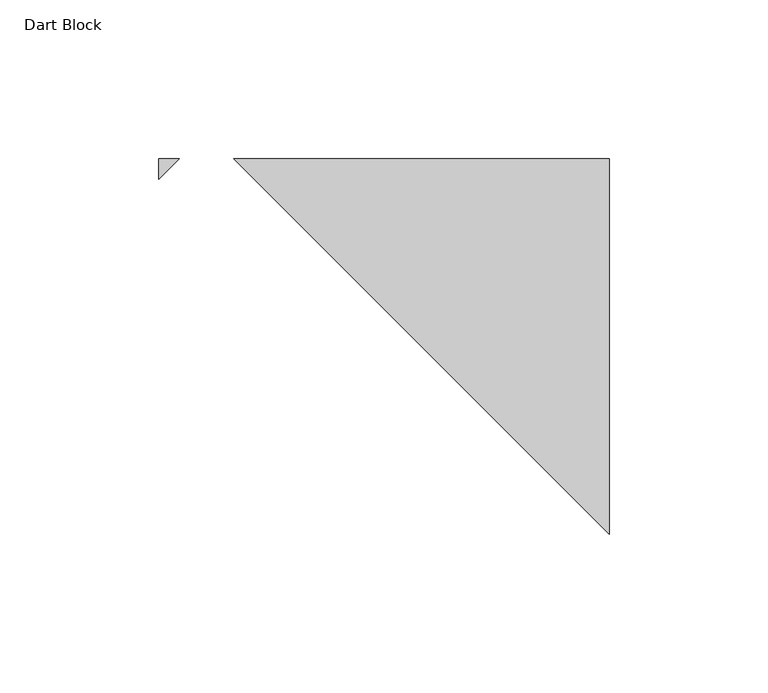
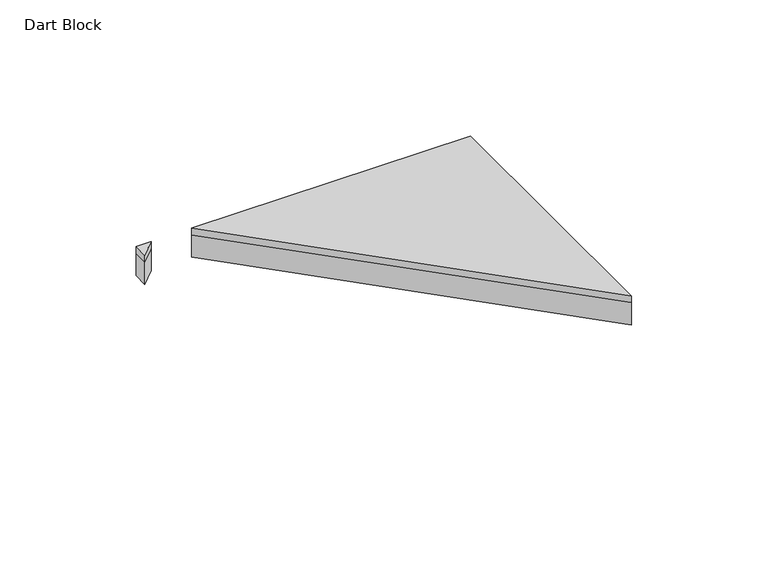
"""IFC4 building model written with IfcOpenShell, lengths in millimetres: proxy geometry, FilzFelt_Dart_Block : Dart Block."""

import ifcopenshell
import ifcopenshell.guid

model = None  # the IFC model being written
_history = None  # IfcOwnerHistory: only IFC2X3 demands one
_inside = {}  # id of a spatial element -> (the spatial element, [elements in it])
_under = {}  # id of a project, library or spatial element -> (it, [spatial elements below it])
_declared = {}  # id of a project -> (the project, [libraries it declares])
_typed = {}  # id of a type object -> (the type object, [elements of that type])
_made_of = {}  # id of a material, layer set ... -> (it, [elements and type objects made of it])


def new_model(schema):
    """Start an empty IFC model of exactly this schema.

    Asked for "IFC4X3", IfcOpenShell would pick the latest addendum, in which some entities
    have other attributes; the version numbers below select the first issue.
    IFC2X3 requires an IfcOwnerHistory on every rooted entity: one is made here for all.
    """
    global model, _history
    if schema == "IFC4X3":
        model = ifcopenshell.file(schema_version=(4, 3, 0, 0))
    else:
        model = ifcopenshell.file(schema=schema)
    _inside.clear()
    _under.clear()
    _declared.clear()
    _typed.clear()
    _made_of.clear()
    _history = None
    if model.schema == "IFC2X3":
        org = make("IfcOrganization", Name="unknown")
        user = make(
            "IfcPersonAndOrganization",
            ThePerson=make("IfcPerson", FamilyName="unknown"),
            TheOrganization=org,
        )
        app = make(
            "IfcApplication",
            ApplicationDeveloper=org,
            Version="unknown",
            ApplicationFullName="unknown",
            ApplicationIdentifier="unknown",
        )
        _history = make(
            "IfcOwnerHistory",
            OwningUser=user,
            OwningApplication=app,
            ChangeAction="ADDED",
            CreationDate=0,
        )
    return model


def make(cls, **values):
    """One entity of the class cls with the attributes given. An attribute that is None is left unset."""
    return model.create_entity(
        cls, **{name: value for name, value in values.items() if value is not None}
    )


def rooted(cls, **values):
    """An entity with a GlobalId (a new one), such as an element, a storey or a relation."""
    return make(cls, GlobalId=ifcopenshell.guid.new(), OwnerHistory=_history, **values)


def si_unit(unit_type, name, prefix=None):
    """IfcSIUnit, for example si_unit("LENGTHUNIT", "METRE", prefix="MILLI")."""
    return make("IfcSIUnit", UnitType=unit_type, Prefix=prefix, Name=name)


def assignment(units):
    """IfcUnitAssignment: the units of a project."""
    return None if units is None else make("IfcUnitAssignment", Units=units)


def point(xyz):
    """IfcCartesianPoint."""
    return None if xyz is None else make("IfcCartesianPoint", Coordinates=xyz)


def direction(xyz):
    """IfcDirection."""
    return None if xyz is None else make("IfcDirection", DirectionRatios=xyz)


def frame(location, z_axis=None, x_axis=None):
    """IfcAxis2Placement3D, a coordinate frame: its origin and axes. An axis left out is left unset."""
    return make(
        "IfcAxis2Placement3D",
        Location=point(location),
        Axis=direction(z_axis),
        RefDirection=direction(x_axis),
    )


def origin():
    """The frame at (0, 0, 0) with its axes left unset."""
    return frame((0.0, 0.0, 0.0))


def origin_with_axes():
    """The frame at (0, 0, 0) with the z axis (0, 0, 1) and the x axis (1, 0, 0) written out."""
    return frame((0.0, 0.0, 0.0), z_axis=(0.0, 0.0, 1.0), x_axis=(1.0, 0.0, 0.0))


def place(relative_to, where):
    """IfcLocalPlacement: puts the frame where relative to a parent placement (None: the world)."""
    return make(
        "IfcLocalPlacement", PlacementRelTo=relative_to, RelativePlacement=where
    )


def context(
    kind, dimensions, precision=None, world=None, true_north=None, identifier=None
):
    """IfcGeometricRepresentationContext, for example the 3D "Model" context."""
    return make(
        "IfcGeometricRepresentationContext",
        ContextIdentifier=identifier,
        ContextType=kind,
        CoordinateSpaceDimension=dimensions,
        Precision=precision,
        WorldCoordinateSystem=world,
        TrueNorth=true_north,
    )


def project(units=None, contexts=None):
    """IfcProject with its units and contexts."""
    return rooted(
        "IfcProject",
        Name="project",
        RepresentationContexts=contexts,
        UnitsInContext=assignment(units),
    )


def spatial(cls, under=None, at=None, **own):
    """A site, building, storey or space (cls), placed at a placement, below another one or the project."""
    s = rooted(cls, ObjectPlacement=at, **own)
    if under is not None:
        _under.setdefault(under.id(), (under, []))[1].append(s)
    return s


def polyline(points):
    """IfcPolyline through the points."""
    return make("IfcPolyline", Points=[point(p) for p in points])


def outline(outer, holes=None, kind="AREA"):
    """IfcArbitraryClosedProfileDef: a profile drawn as a closed curve; with holes, ...WithVoids."""
    if holes is None:
        return make("IfcArbitraryClosedProfileDef", ProfileType=kind, OuterCurve=outer)
    return make(
        "IfcArbitraryProfileDefWithVoids",
        ProfileType=kind,
        OuterCurve=outer,
        InnerCurves=holes,
    )


def extrude(swept, where, along, depth):
    """IfcExtrudedAreaSolid: the profile swept, set in the frame where, extruded along a direction by depth."""
    return make(
        "IfcExtrudedAreaSolid",
        SweptArea=swept,
        Position=where,
        ExtrudedDirection=direction(along),
        Depth=depth,
    )


def shape(context_of_items, identifier, shape_type, items):
    """IfcShapeRepresentation: the items that make up one representation, for example the "Body"."""
    return make(
        "IfcShapeRepresentation",
        ContextOfItems=context_of_items,
        RepresentationIdentifier=identifier,
        RepresentationType=shape_type,
        Items=items,
    )


def source(mapping_origin, context_of_items, identifier, shape_type, items):
    """IfcRepresentationMap: a shape defined once, which mapped items show again and again."""
    return make(
        "IfcRepresentationMap",
        MappingOrigin=mapping_origin,
        MappedRepresentation=shape(context_of_items, identifier, shape_type, items),
    )


def transform(
    local_origin,
    x_axis=None,
    y_axis=None,
    z_axis=None,
    scale=None,
    scale2=None,
    scale3=None,
    uniform=True,
):
    """IfcCartesianTransformationOperator3D, or its non-uniform kind. x_axis, y_axis, z_axis: its Axis1, 2, 3."""
    if uniform:
        return make(
            "IfcCartesianTransformationOperator3D",
            Axis1=direction(x_axis),
            Axis2=direction(y_axis),
            LocalOrigin=point(local_origin),
            Scale=scale,
            Axis3=direction(z_axis),
        )
    return make(
        "IfcCartesianTransformationOperator3DnonUniform",
        Axis1=direction(x_axis),
        Axis2=direction(y_axis),
        LocalOrigin=point(local_origin),
        Scale=scale,
        Axis3=direction(z_axis),
        Scale2=scale2,
        Scale3=scale3,
    )


def mapped(mapping_source, mapping_target):
    """IfcMappedItem: shows the shape of a source again, moved by a transform."""
    return make(
        "IfcMappedItem", MappingSource=mapping_source, MappingTarget=mapping_target
    )


def made_of(thing, what):
    """Note that an element or type object is made of a material, layer set ...; save() writes the relation."""
    if what is not None:
        _made_of.setdefault(what.id(), (what, []))[1].append(thing)
    return thing


def element(
    cls,
    number,
    at=None,
    inside=None,
    cuts=None,
    type_object=None,
    material=None,
    context=None,
    identifier="Body",
    shape_type=None,
    held_by="IfcProductDefinitionShape",
    body=None,
    shapes=None,
    **own,
):
    """One element of the class cls, such as IfcWall. Its Tag is "e" and its number.

    at: its placement. inside: the storey or other place that contains it. cuts: it is an
    opening in that element (IfcRelVoidsElement). A single representation is given by context,
    identifier, shape_type and body (its items); several are given by shapes. held_by: the class
    of the entity that holds the representations. save() writes the other relations.
    """
    e = rooted(cls, Tag="e%d" % number, ObjectPlacement=at, **own)
    if body is not None:
        shapes = [shape(context, identifier, shape_type, body)]
    if shapes is not None:
        e.Representation = make(held_by, Representations=shapes)
    if inside is not None:
        _inside.setdefault(inside.id(), (inside, []))[1].append(e)
    if cuts is not None:
        rooted(
            "IfcRelVoidsElement", RelatingBuildingElement=cuts, RelatedOpeningElement=e
        )
    if type_object is not None:
        _typed.setdefault(type_object.id(), (type_object, []))[1].append(e)
    return made_of(e, material)


def aggregate(whole, parts):
    """IfcRelAggregates: a whole, such as a stair, and the parts it consists of."""
    return rooted("IfcRelAggregates", RelatingObject=whole, RelatedObjects=parts)


def save(model, path):
    """Write the relations noted so far, then the file.

    IfcRelAggregates (storeys below a building ...), IfcRelContainedInSpatialStructure (elements
    in a storey), IfcRelDefinesByType, IfcRelAssociatesMaterial and IfcRelDeclares: one each for
    every whole, place, type object, material and project.
    """
    for whole, parts in _under.values():
        aggregate(whole, parts)
    for where, things in _inside.values():
        rooted(
            "IfcRelContainedInSpatialStructure",
            RelatedElements=things,
            RelatingStructure=where,
        )
    for kind, things in _typed.values():
        rooted("IfcRelDefinesByType", RelatedObjects=things, RelatingType=kind)
    for what, things in _made_of.values():
        rooted("IfcRelAssociatesMaterial", RelatedObjects=things, RelatingMaterial=what)
    for by, libraries in _declared.values():
        rooted("IfcRelDeclares", RelatingContext=by, RelatedDefinitions=libraries)
    model.write(path)


def dart_block_3c974cb8(model_context):
    return source(origin(), model_context, "Body", "SweptSolid", [
        extrude(outline(polyline([(127.0, -72.0916122), (127.0, -190.5), (8.5916122, -72.0916122), (127.0, -72.0916122)])), frame((0.0, 0.0, 10.0210937), z_axis=(0.0, 0.0, 1.0), x_axis=(1.0, 0.0, 0.0)), (0.0, 0.0, 1.0), 2.9765625),
        extrude(outline(polyline([(-8.5916122, -72.0916122), (-15.0561328, -78.5561328), (-15.0561328, -72.0916122), (-8.5916122, -72.0916122)])), frame((0.0, 0.0, 10.0210937), z_axis=(0.0, 0.0, 1.0), x_axis=(1.0, 0.0, 0.0)), (0.0, 0.0, 1.0), 2.9765625),
        extrude(outline(polyline([(127.0, -190.5), (8.5916122, -72.0916122), (127.0, -72.0916122), (127.0, -190.5)])), origin_with_axes(), (0.0, 0.0, 1.0), 10.0210938),
        extrude(outline(polyline([(-8.5916122, -72.0916122), (-15.0561328, -78.5561328), (-15.0561328, -72.0916122), (-8.5916122, -72.0916122)])), origin_with_axes(), (0.0, 0.0, 1.0), 10.0210938),
    ])


if __name__ == "__main__":
    model = new_model("IFC4")
    model_context = context("Model", 3, world=origin())
    ifc_project = project(units=[si_unit("LENGTHUNIT", "METRE", prefix="MILLI")], contexts=[model_context])
    site = spatial("IfcSite", under=ifc_project)
    building = spatial("IfcBuilding", under=site)
    placement = place(None, origin())
    dart_block_shape = dart_block_3c974cb8(model_context)
    element("IfcBuildingElementProxy", 1, Name="FilzFelt_Dart_Block : Dart Block", ObjectType="FilzFelt_Dart_Block : Dart Block", at=placement, inside=building, context=model_context, shape_type="MappedRepresentation", body=[
        mapped(dart_block_shape, transform((0.0, 0.0, 0.0), x_axis=(1.0, 0.0, 0.0), y_axis=(0.0, 1.0, 0.0), z_axis=(0.0, 0.0, 1.0))),
    ])
    save(model, "model.ifc")
